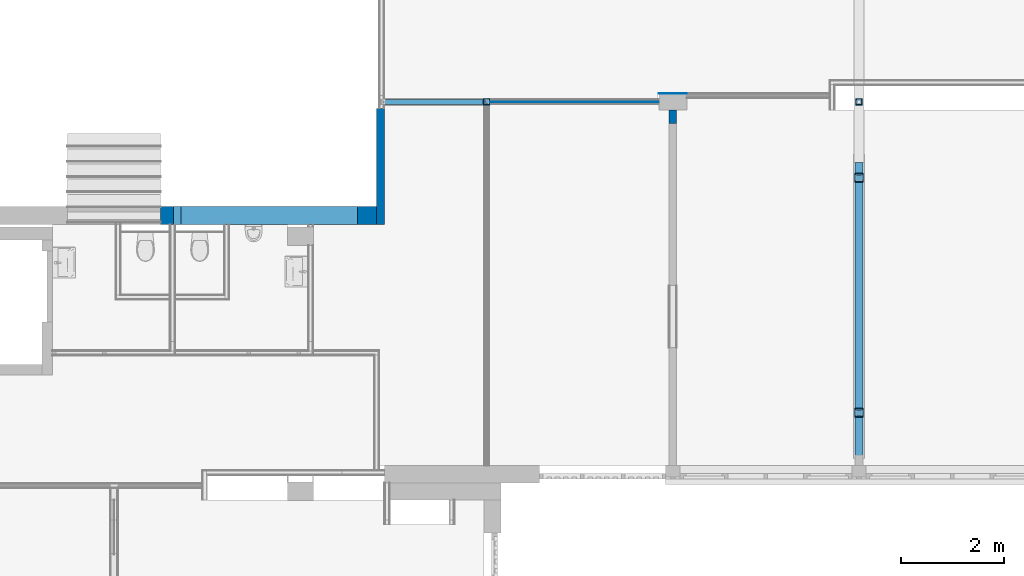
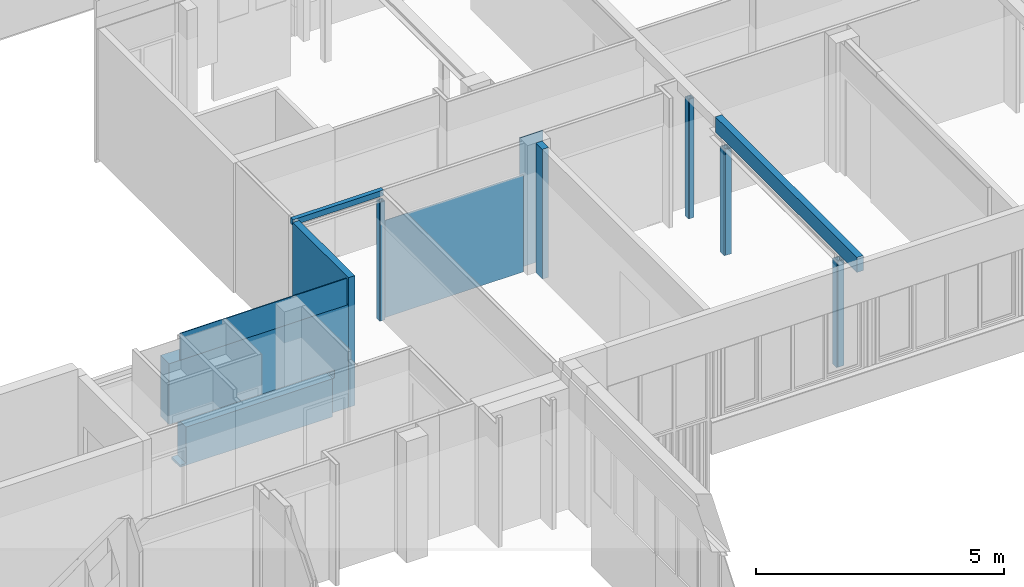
# One storey, part 46 of 99: 24 walls.
"""IFC2X3 building model written with IfcOpenShell, lengths in millimetres."""

import ifcopenshell
import ifcopenshell.guid

model = None  # the IFC model being written
_history = None  # IfcOwnerHistory: only IFC2X3 demands one
_inside = {}  # id of a spatial element -> (the spatial element, [elements in it])
_under = {}  # id of a project, library or spatial element -> (it, [spatial elements below it])
_declared = {}  # id of a project -> (the project, [libraries it declares])
_typed = {}  # id of a type object -> (the type object, [elements of that type])
_made_of = {}  # id of a material, layer set ... -> (it, [elements and type objects made of it])


def new_model(schema):
    """Start an empty IFC model of exactly this schema.

    Asked for "IFC4X3", IfcOpenShell would pick the latest addendum, in which some entities
    have other attributes; the version numbers below select the first issue.
    IFC2X3 requires an IfcOwnerHistory on every rooted entity: one is made here for all.
    """
    global model, _history
    if schema == "IFC4X3":
        model = ifcopenshell.file(schema_version=(4, 3, 0, 0))
    else:
        model = ifcopenshell.file(schema=schema)
    _inside.clear()
    _under.clear()
    _declared.clear()
    _typed.clear()
    _made_of.clear()
    _history = None
    if model.schema == "IFC2X3":
        org = make("IfcOrganization", Name="unknown")
        user = make(
            "IfcPersonAndOrganization",
            ThePerson=make("IfcPerson", FamilyName="unknown"),
            TheOrganization=org,
        )
        app = make(
            "IfcApplication",
            ApplicationDeveloper=org,
            Version="unknown",
            ApplicationFullName="unknown",
            ApplicationIdentifier="unknown",
        )
        _history = make(
            "IfcOwnerHistory",
            OwningUser=user,
            OwningApplication=app,
            ChangeAction="ADDED",
            CreationDate=0,
        )
    return model


def make(cls, **values):
    """One entity of the class cls with the attributes given. An attribute that is None is left unset."""
    return model.create_entity(
        cls, **{name: value for name, value in values.items() if value is not None}
    )


def entity(cls, *values):
    """Any entity or typed value of the class cls, its attributes in the order of the schema. None: left unset."""
    e = model.create_entity(cls)
    for i, value in enumerate(values):
        if value is not None:
            e[i] = value
    return e


def rooted(cls, **values):
    """An entity with a GlobalId (a new one), such as an element, a storey or a relation."""
    return make(cls, GlobalId=ifcopenshell.guid.new(), OwnerHistory=_history, **values)


def si_unit(unit_type, name, prefix=None):
    """IfcSIUnit, for example si_unit("LENGTHUNIT", "METRE", prefix="MILLI")."""
    return make("IfcSIUnit", UnitType=unit_type, Prefix=prefix, Name=name)


def converted_unit(unit_type, name, factor, base, dimensions=None, offset=None):
    """IfcConversionBasedUnit, such as the inch: factor (a typed value) times the base unit."""
    return make(
        "IfcConversionBasedUnit"
        if offset is None
        else "IfcConversionBasedUnitWithOffset",
        ConversionOffset=offset,
        Dimensions=None
        if dimensions is None
        else entity("IfcDimensionalExponents", *dimensions),
        UnitType=unit_type,
        Name=name,
        ConversionFactor=make(
            "IfcMeasureWithUnit", ValueComponent=factor, UnitComponent=base
        ),
    )


def derived_unit(unit_type, elements):
    """IfcDerivedUnit: a product of units, each with its exponent."""
    return make(
        "IfcDerivedUnit",
        Elements=[
            make("IfcDerivedUnitElement", Unit=unit, Exponent=power)
            for unit, power in elements
        ],
        UnitType=unit_type,
    )


def money_unit(currency):
    """IfcMonetaryUnit."""
    return make("IfcMonetaryUnit", Currency=currency)


def assignment(units):
    """IfcUnitAssignment: the units of a project."""
    return None if units is None else make("IfcUnitAssignment", Units=units)


def point(xyz):
    """IfcCartesianPoint."""
    return None if xyz is None else make("IfcCartesianPoint", Coordinates=xyz)


def direction(xyz):
    """IfcDirection."""
    return None if xyz is None else make("IfcDirection", DirectionRatios=xyz)


def frame(location, z_axis=None, x_axis=None):
    """IfcAxis2Placement3D, a coordinate frame: its origin and axes. An axis left out is left unset."""
    return make(
        "IfcAxis2Placement3D",
        Location=point(location),
        Axis=direction(z_axis),
        RefDirection=direction(x_axis),
    )


def origin_with_axes():
    """The frame at (0, 0, 0) with the z axis (0, 0, 1) and the x axis (1, 0, 0) written out."""
    return frame((0.0, 0.0, 0.0), z_axis=(0.0, 0.0, 1.0), x_axis=(1.0, 0.0, 0.0))


def place(relative_to, where):
    """IfcLocalPlacement: puts the frame where relative to a parent placement (None: the world)."""
    return make(
        "IfcLocalPlacement", PlacementRelTo=relative_to, RelativePlacement=where
    )


def context(
    kind, dimensions, precision=None, world=None, true_north=None, identifier=None
):
    """IfcGeometricRepresentationContext, for example the 3D "Model" context."""
    return make(
        "IfcGeometricRepresentationContext",
        ContextIdentifier=identifier,
        ContextType=kind,
        CoordinateSpaceDimension=dimensions,
        Precision=precision,
        WorldCoordinateSystem=world,
        TrueNorth=true_north,
    )


def subcontext(parent, identifier, kind, view, scale=None):
    """IfcGeometricRepresentationSubContext, for example "Body" below "Model"."""
    return make(
        "IfcGeometricRepresentationSubContext",
        ContextIdentifier=identifier,
        ContextType=kind,
        ParentContext=parent,
        TargetScale=scale,
        TargetView=view,
    )


def project(units=None, contexts=None):
    """IfcProject with its units and contexts."""
    return rooted(
        "IfcProject",
        Name="project",
        RepresentationContexts=contexts,
        UnitsInContext=assignment(units),
    )


def spatial(cls, under=None, at=None, **own):
    """A site, building, storey or space (cls), placed at a placement, below another one or the project."""
    s = rooted(cls, ObjectPlacement=at, **own)
    if under is not None:
        _under.setdefault(under.id(), (under, []))[1].append(s)
    return s


def faces_of(points, faces, orient=None, outer=None):
    """IfcFace entities. A face is a list of loops; a loop is a list of indices into points, from 0.

    orient and outer hold one flag for each loop. By default every Orientation is true, the
    first loop of a face is its IfcFaceOuterBound and the others are IfcFaceBound.
    """
    made = []
    for i, loops in enumerate(faces):
        bounds = []
        for j, loop in enumerate(loops):
            is_outer = j == 0 if outer is None else outer[i][j]
            bounds.append(
                make(
                    "IfcFaceOuterBound" if is_outer else "IfcFaceBound",
                    Bound=make("IfcPolyLoop", Polygon=[points[k] for k in loop]),
                    Orientation=True if orient is None else orient[i][j],
                )
            )
        made.append(make("IfcFace", Bounds=bounds))
    return made


def faceted_brep(points, faces, orient=None, outer=None, voids=None):
    """IfcFacetedBrep: a solid bounded by flat faces; with voids (closed shells), ...WithVoids."""
    shared = [point(p) for p in points]
    hull = make("IfcClosedShell", CfsFaces=faces_of(shared, faces, orient, outer))
    if voids is None:
        return make("IfcFacetedBrep", Outer=hull)
    return make(
        "IfcFacetedBrepWithVoids",
        Outer=hull,
        Voids=[
            make(cls, CfsFaces=faces_of(shared, fs, o, b)) for cls, fs, o, b in voids
        ],
    )


def shape(context_of_items, identifier, shape_type, items):
    """IfcShapeRepresentation: the items that make up one representation, for example the "Body"."""
    return make(
        "IfcShapeRepresentation",
        ContextOfItems=context_of_items,
        RepresentationIdentifier=identifier,
        RepresentationType=shape_type,
        Items=items,
    )


def material(Name=None, Category=None):
    """IfcMaterial."""
    return make("IfcMaterial", Name=Name, Category=Category)


def made_of(thing, what):
    """Note that an element or type object is made of a material, layer set ...; save() writes the relation."""
    if what is not None:
        _made_of.setdefault(what.id(), (what, []))[1].append(thing)
    return thing


def type_object(cls, material=None, **own):
    """A type object (cls), such as IfcWallType, which elements share."""
    return made_of(rooted(cls, **own), material)


def element(
    cls,
    number,
    at=None,
    inside=None,
    cuts=None,
    type_object=None,
    material=None,
    context=None,
    identifier="Body",
    shape_type=None,
    held_by="IfcProductDefinitionShape",
    body=None,
    shapes=None,
    **own,
):
    """One element of the class cls, such as IfcWall. Its Tag is "e" and its number.

    at: its placement. inside: the storey or other place that contains it. cuts: it is an
    opening in that element (IfcRelVoidsElement). A single representation is given by context,
    identifier, shape_type and body (its items); several are given by shapes. held_by: the class
    of the entity that holds the representations. save() writes the other relations.
    """
    e = rooted(cls, Tag="e%d" % number, ObjectPlacement=at, **own)
    if body is not None:
        shapes = [shape(context, identifier, shape_type, body)]
    if shapes is not None:
        e.Representation = make(held_by, Representations=shapes)
    if inside is not None:
        _inside.setdefault(inside.id(), (inside, []))[1].append(e)
    if cuts is not None:
        rooted(
            "IfcRelVoidsElement", RelatingBuildingElement=cuts, RelatedOpeningElement=e
        )
    if type_object is not None:
        _typed.setdefault(type_object.id(), (type_object, []))[1].append(e)
    return made_of(e, material)


def aggregate(whole, parts):
    """IfcRelAggregates: a whole, such as a stair, and the parts it consists of."""
    return rooted("IfcRelAggregates", RelatingObject=whole, RelatedObjects=parts)


def save(model, path):
    """Write the relations noted so far, then the file.

    IfcRelAggregates (storeys below a building ...), IfcRelContainedInSpatialStructure (elements
    in a storey), IfcRelDefinesByType, IfcRelAssociatesMaterial and IfcRelDeclares: one each for
    every whole, place, type object, material and project.
    """
    for whole, parts in _under.values():
        aggregate(whole, parts)
    for where, things in _inside.values():
        rooted(
            "IfcRelContainedInSpatialStructure",
            RelatedElements=things,
            RelatingStructure=where,
        )
    for kind, things in _typed.values():
        rooted("IfcRelDefinesByType", RelatedObjects=things, RelatingType=kind)
    for what, things in _made_of.values():
        rooted("IfcRelAssociatesMaterial", RelatedObjects=things, RelatingMaterial=what)
    for by, libraries in _declared.values():
        rooted("IfcRelDeclares", RelatingContext=by, RelatedDefinitions=libraries)
    model.write(path)


model = new_model("IFC2X3")

# Units and contexts
model_context = context("Model", 3, precision=0.01, world=origin_with_axes(), true_north=direction((0.0, 1.0)))
body_context = subcontext(model_context, "Body", "Model", "MODEL_VIEW")
ifc_project = project(units=[si_unit("LENGTHUNIT", "METRE", prefix="MILLI"), si_unit("AREAUNIT", "SQUARE_METRE"), si_unit("VOLUMEUNIT", "CUBIC_METRE"), converted_unit("PLANEANGLEUNIT", "DEGREE", entity("IfcPlaneAngleMeasure", 0.0174532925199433), si_unit("PLANEANGLEUNIT", "RADIAN"), dimensions=[0, 0, 0, 0, 0, 0, 0]), money_unit("EUR"), converted_unit("TIMEUNIT", "Year", entity("IfcTimeMeasure", 31557600.0), si_unit("TIMEUNIT", "SECOND"), dimensions=[0, 0, 1, 0, 0, 0, 0]), si_unit("MASSUNIT", "GRAM", prefix="KILO"), si_unit("THERMODYNAMICTEMPERATUREUNIT", "DEGREE_CELSIUS"), si_unit("LUMINOUSINTENSITYUNIT", "LUMEN"), si_unit("ENERGYUNIT", "JOULE", prefix="MEGA"), derived_unit("THERMALCONDUCTANCEUNIT", [(si_unit("POWERUNIT", "WATT"), 1), (si_unit("LENGTHUNIT", "METRE"), -1), (si_unit("THERMODYNAMICTEMPERATUREUNIT", "KELVIN"), -1)]), derived_unit("SPECIFICHEATCAPACITYUNIT", [(si_unit("ENERGYUNIT", "JOULE"), 1), (si_unit("MASSUNIT", "GRAM", prefix="KILO"), -1), (si_unit("THERMODYNAMICTEMPERATUREUNIT", "KELVIN"), -1)]), derived_unit("MASSDENSITYUNIT", [(si_unit("MASSUNIT", "GRAM", prefix="KILO"), 1), (si_unit("VOLUMEUNIT", "CUBIC_METRE"), -1)])], contexts=[model_context])

# Site, building, storey
site_placement = place(None, origin_with_axes())
site = spatial("IfcSite", under=ifc_project, at=site_placement, Name="Site", CompositionType="ELEMENT")
building_placement = place(site_placement, origin_with_axes())
building = spatial("IfcBuilding", under=site, at=building_placement, Name="Naam gebouw", CompositionType="ELEMENT")
storey_placement = place(building_placement, frame((0.0, 0.0, 7650.0), z_axis=(0.0, 0.0, 1.0), x_axis=(1.0, 0.0, 0.0)))
storey = spatial("IfcBuildingStorey", under=building, at=storey_placement, Name="2e verdieping N", CompositionType="ELEMENT", Elevation=7650.0)

# Walls
ifc_material_1 = material(Name="ALG - CONSTRUCTIEF")
wall_type_1 = type_object("IfcWallType", Name="ALG - CONSTRUCTIEF 150", PredefinedType="NOTDEFINED")
wall_1_placement = place(storey_placement, frame((36000.0, 17605.91242510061, -99.99999999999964), z_axis=(0.0, 0.0, 1.0), x_axis=(0.0, 1.0, 0.0)))
element("IfcWall", 1, at=wall_1_placement, inside=storey, type_object=wall_type_1, material=ifc_material_1, Name="_Wand-x", context=body_context, shape_type="Brep", body=[
    faceted_brep([(264.9999999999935, -75.00000000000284, 99.99999999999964), (264.9999999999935, 75.00000000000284, 99.99999999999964), (264.9999999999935, 75.00000000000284, 3299.999999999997), (264.9999999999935, -75.00000000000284, 3299.999999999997), (0.0, -75.00000000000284, 99.99999999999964), (0.0, 75.00000000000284, 99.99999999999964), (0.0, 75.00000000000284, 3299.999999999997), (0.0, -75.00000000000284, 3299.999999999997)], [[[0, 1, 2, 3]], [[4, 5, 1, 0]], [[1, 5, 6, 2]], [[2, 6, 7, 3]], [[4, 0, 3, 7]], [[5, 4, 7, 6]]]),
])
wall_2_placement = place(storey_placement, frame((30425.0, 17900.91242510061, -99.99999999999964), z_axis=(0.0, 0.0, 1.0), x_axis=(0.0, -1.0, 0.0)))
element("IfcWall", 2, at=wall_2_placement, inside=storey, type_object=wall_type_1, material=ifc_material_1, Name="_Wand-x", context=body_context, shape_type="Brep", body=[
    faceted_brep([(0.0, -149.9999999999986, 99.99999999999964), (0.0, -149.9999999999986, 3299.999999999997), (0.0, 0.0, 3299.999999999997), (0.0, 0.0, 99.99999999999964), (2250.000000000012, -149.9999999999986, 99.99999999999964), (2250.000000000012, -149.9999999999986, 3299.999999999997), (2250.000000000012, 0.0, 3299.999999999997), (2250.000000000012, 0.0, 99.99999999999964)], [[[0, 1, 2, 3]], [[4, 5, 1, 0]], [[5, 6, 2, 1]], [[3, 2, 6, 7]], [[4, 0, 3, 7]], [[7, 6, 5, 4]]]),
])
wall_type_2 = type_object("IfcWallType", Name="ALG - CONSTRUCTIEF 350", PredefinedType="NOTDEFINED")
wall_3_placement = place(storey_placement, frame((30424.99999999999, 16000.91242510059, 0.0), z_axis=(0.0, 0.0, 1.0), x_axis=(-1.0, 0.0, 0.0)))
element("IfcWall", 3, at=wall_3_placement, inside=storey, type_object=wall_type_2, material=ifc_material_1, Name="_Wand-x", context=body_context, shape_type="Brep", body=[
    faceted_brep([(149.999999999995, 0.0, 0.0), (3932.999999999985, 0.0, 0.0), (3932.999999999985, 0.0, 839.9999999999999), (479.9999999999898, 0.0, 839.9999999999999), (479.9999999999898, 0.0, 1039.999999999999), (4328.999999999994, 0.0, 1039.999999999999), (4328.999999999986, 0.0, 2539.999999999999), (149.999999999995, 0.0, 2539.999999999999), (149.999999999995, 350.0000000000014, 0.0), (3932.999999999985, 350.0000000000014, 0.0), (3932.999999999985, 349.9999692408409, 839.9999999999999), (479.9999999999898, 349.9999692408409, 839.9999999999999), (479.9999999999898, 349.9999692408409, 1039.999999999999), (4328.999999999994, 349.9999692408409, 1039.999999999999), (4328.999999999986, 350.0000000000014, 2539.999999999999), (149.999999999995, 350.0000000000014, 2539.999999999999)], [[[0, 1, 2, 3, 4, 5, 6, 7]], [[8, 9, 1, 0]], [[9, 10, 2, 1]], [[3, 2, 10, 11]], [[11, 12, 4, 3]], [[12, 13, 5, 4]], [[14, 6, 5, 13]], [[6, 14, 15, 7]], [[8, 0, 7, 15]], [[11, 10, 9, 8, 15, 14, 13, 12]]]),
])
wall_4_placement = place(storey_placement, frame((29906.0, 16000.91242510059, -99.99999999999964), z_axis=(0.0, 0.0, 1.0), x_axis=(-1.0, 0.0, 0.0)))
element("IfcWall", 4, at=wall_4_placement, inside=storey, type_object=wall_type_2, material=ifc_material_1, Name="_Wand-x", context=body_context, shape_type="Brep", body=[
    faceted_brep([(3559.999999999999, 0.0, 0.0), (3559.999999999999, 0.0, 49.99999987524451), (3413.999999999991, 0.0, 49.99999987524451), (3413.999999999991, 0.0, 939.9999999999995), (0.0, 0.0, 939.9999999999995), (0.0, 0.0, 0.0), (3559.999999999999, 350.0000000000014, 0.0), (3559.999999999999, 349.9999983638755, 49.99999987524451), (3413.999999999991, 349.9999692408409, 49.99999987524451), (3413.999999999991, 349.9999692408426, 939.9999999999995), (0.0, 349.9999692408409, 939.9999999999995), (0.0, 350.0000000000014, 0.0)], [[[0, 1, 2, 3, 4, 5]], [[6, 7, 1, 0]], [[8, 2, 1, 7]], [[8, 9, 3, 2]], [[4, 3, 9, 10]], [[11, 5, 4, 10]], [[5, 11, 6, 0]], [[9, 8, 7, 6, 11, 10]]]),
    faceted_brep([(3559.999999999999, 329.9999999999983, 2639.999999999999), (3559.999999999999, 330.0000000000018, 3299.999999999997), (-39.00000000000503, 330.0000000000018, 3299.999999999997), (-329.9999999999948, 329.9999999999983, 3299.999999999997), (-329.9999999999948, 329.9999999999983, 2639.999999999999), (3559.999999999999, 350.0000000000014, 2639.999999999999), (3559.999999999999, 350.0000000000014, 3299.999999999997), (-329.9999999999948, 350.0000000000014, 3299.999999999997), (-329.9999999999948, 350.0000000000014, 2639.999999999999)], [[[0, 1, 2, 3, 4]], [[5, 6, 1, 0]], [[6, 7, 3, 2, 1]], [[4, 3, 7, 8]], [[8, 5, 0, 4]], [[8, 7, 6, 5]]]),
])
ifc_material_2 = material(Name="Gipsplaat")
wall_type_3 = type_object("IfcWallType", Name="Gipsplaat 25", PredefinedType="NOTDEFINED")
wall_5_placement = place(storey_placement, frame((39685.0, 16475.9124251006, 0.0), z_axis=(0.0, 0.0, 1.0), x_axis=(0.0, 1.0, 0.0)))
element("IfcWall", 5, at=wall_5_placement, inside=storey, type_object=wall_type_3, material=ifc_material_2, Name="_Wand-x", context=body_context, shape_type="Brep", body=[
    faceted_brep([(145.0000000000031, 25.00000000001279, 0.0), (145.0000000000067, 0.0, 0.0), (24.99999999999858, 0.0, 0.0), (24.99999999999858, 24.99999999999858, 0.0), (145.0000000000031, 25.00000000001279, 2609.999999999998), (145.0000000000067, 0.0, 2609.999999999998), (24.99999999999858, 0.0, 2609.999999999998), (24.99999999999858, 24.99999999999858, 2609.999999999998)], [[[0, 1, 2, 3]], [[1, 0, 4, 5]], [[1, 5, 6, 2]], [[7, 3, 2, 6]], [[4, 0, 3, 7]], [[5, 4, 7, 6]]]),
])
wall_6_placement = place(storey_placement, frame((39515.00000000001, 11930.91242510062, 0.0), z_axis=(0.0, 0.0, 1.0), x_axis=(1.0, 0.0, 0.0)))
element("IfcWall", 6, at=wall_6_placement, inside=storey, type_object=wall_type_3, material=ifc_material_2, Name="_Wand-x", context=body_context, shape_type="Brep", body=[
    faceted_brep([(169.9999999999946, 25.00000000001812, 0.0), (169.9999999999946, 0.0, 0.0), (24.99999999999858, 0.0, 0.0), (24.99999999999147, 25.00000000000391, 0.0), (169.9999999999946, 25.00000000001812, 2609.999999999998), (169.9999999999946, 0.0, 2609.999999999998), (24.99999999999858, 0.0, 2609.999999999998), (24.99999999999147, 25.00000000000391, 2609.999999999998)], [[[0, 1, 2, 3]], [[1, 0, 4, 5]], [[1, 5, 6, 2]], [[7, 3, 2, 6]], [[4, 0, 3, 7]], [[5, 4, 7, 6]]]),
])
wall_7_placement = place(storey_placement, frame((39515.00000000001, 11930.91242510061, 0.0), z_axis=(0.0, 0.0, 1.0), x_axis=(0.0, 1.0, 0.0)))
element("IfcWall", 7, at=wall_7_placement, inside=storey, type_object=wall_type_3, material=ifc_material_2, Name="_Wand-x", context=body_context, shape_type="Brep", body=[
    faceted_brep([(169.999999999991, -24.99999999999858, 2609.999999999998), (169.999999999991, 0.0, 2609.999999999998), (0.0, 0.0, 2609.999999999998), (0.0, -24.99999999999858, 2609.999999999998), (169.999999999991, -24.99999999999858, 0.0), (169.999999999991, 0.0, 0.0), (0.0, 0.0, 0.0), (0.0, -24.99999999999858, 0.0)], [[[0, 1, 2, 3]], [[1, 0, 4, 5]], [[1, 5, 6, 2]], [[7, 3, 2, 6]], [[4, 0, 3, 7]], [[5, 4, 7, 6]]]),
])
wall_8_placement = place(storey_placement, frame((39515.00000000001, 12100.9124251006, 0.0), z_axis=(0.0, 0.0, 1.0), x_axis=(1.0, 0.0, 0.0)))
element("IfcWall", 8, at=wall_8_placement, inside=storey, type_object=wall_type_3, material=ifc_material_2, Name="_Wand-x", context=body_context, shape_type="Brep", body=[
    faceted_brep([(170.0000000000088, -25.00000000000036, 2609.999999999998), (170.0000000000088, 0.0, 2609.999999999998), (24.99999999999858, 0.0, 2609.999999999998), (24.99999999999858, -25.00000000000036, 2609.999999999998), (170.0000000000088, -25.00000000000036, 0.0), (170.0000000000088, 0.0, 0.0), (24.99999999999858, 0.0, 0.0), (24.99999999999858, -25.00000000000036, 0.0)], [[[0, 1, 2, 3]], [[1, 0, 4, 5]], [[1, 5, 6, 2]], [[7, 3, 2, 6]], [[4, 0, 3, 7]], [[5, 4, 7, 6]]]),
])
wall_9_placement = place(storey_placement, frame((39685.0, 11930.9124251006, 0.0), z_axis=(0.0, 0.0, 1.0), x_axis=(0.0, 1.0, 0.0)))
element("IfcWall", 9, at=wall_9_placement, inside=storey, type_object=wall_type_3, material=ifc_material_2, Name="_Wand-x", context=body_context, shape_type="Brep", body=[
    faceted_brep([(145.0000000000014, 25.00000000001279, 0.0), (145.0000000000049, 0.0, 0.0), (25.00000000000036, 0.0, 0.0), (24.99999999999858, 25.00000000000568, 0.0), (145.0000000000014, 25.00000000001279, 2609.999999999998), (145.0000000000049, 0.0, 2609.999999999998), (25.00000000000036, 0.0, 2609.999999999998), (24.99999999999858, 25.00000000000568, 2609.999999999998)], [[[0, 1, 2, 3]], [[1, 0, 4, 5]], [[1, 5, 6, 2]], [[7, 3, 2, 6]], [[4, 0, 3, 7]], [[5, 4, 7, 6]]]),
])
wall_10_placement = place(storey_placement, frame((39515.00000000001, 16475.91242510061, 0.0), z_axis=(0.0, 0.0, 1.0), x_axis=(0.0, 1.0, 0.0)))
element("IfcWall", 10, at=wall_10_placement, inside=storey, type_object=wall_type_3, material=ifc_material_2, Name="_Wand-x", context=body_context, shape_type="Brep", body=[
    faceted_brep([(169.999999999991, -24.99999999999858, 2609.999999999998), (169.999999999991, 0.0, 2609.999999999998), (0.0, 0.0, 2609.999999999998), (0.0, -24.99999999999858, 2609.999999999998), (169.999999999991, -24.99999999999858, 0.0), (169.999999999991, 0.0, 0.0), (0.0, 0.0, 0.0), (0.0, -24.99999999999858, 0.0)], [[[0, 1, 2, 3]], [[1, 0, 4, 5]], [[1, 5, 6, 2]], [[7, 3, 2, 6]], [[4, 0, 3, 7]], [[5, 4, 7, 6]]]),
])
wall_11_placement = place(storey_placement, frame((39535.00000000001, 17960.91242510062, 0.0), z_axis=(0.0, 0.0, 1.0), x_axis=(1.0, 0.0, 0.0)))
element("IfcWall", 11, at=wall_11_placement, inside=storey, type_object=wall_type_3, material=ifc_material_2, Name="_Wand-x", context=body_context, shape_type="Brep", body=[
    faceted_brep([(130.0000000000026, 24.99999999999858, 0.0), (130.0000000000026, 0.0, 0.0), (24.99999999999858, 0.0, 0.0), (24.99999999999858, 24.99999999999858, 0.0), (130.0000000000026, 24.99999999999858, 2949.999999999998), (130.0000000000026, 0.0, 2949.999999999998), (24.99999999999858, 0.0, 2949.999999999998), (24.99999999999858, 24.99999999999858, 2949.999999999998)], [[[0, 1, 2, 3]], [[1, 0, 4, 5]], [[1, 5, 6, 2]], [[7, 3, 2, 6]], [[4, 0, 3, 7]], [[5, 4, 7, 6]]]),
])
wall_12_placement = place(storey_placement, frame((39515.00000000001, 16645.9124251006, 0.0), z_axis=(0.0, 0.0, 1.0), x_axis=(1.0, 0.0, 0.0)))
element("IfcWall", 12, at=wall_12_placement, inside=storey, type_object=wall_type_3, material=ifc_material_2, Name="_Wand-x", context=body_context, shape_type="Brep", body=[
    faceted_brep([(170.0000000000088, -24.99999999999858, 2609.999999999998), (170.0000000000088, 0.0, 2609.999999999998), (24.99999999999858, 0.0, 2609.999999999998), (24.99999999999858, -24.99999999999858, 2609.999999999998), (170.0000000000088, -24.99999999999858, 0.0), (170.0000000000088, 0.0, 0.0), (24.99999999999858, 0.0, 0.0), (24.99999999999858, -24.99999999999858, 0.0)], [[[0, 1, 2, 3]], [[1, 0, 4, 5]], [[1, 5, 6, 2]], [[7, 3, 2, 6]], [[4, 0, 3, 7]], [[5, 4, 7, 6]]]),
])
wall_13_placement = place(storey_placement, frame((39515.00000000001, 16475.91242510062, 0.0), z_axis=(0.0, 0.0, 1.0), x_axis=(1.0, 0.0, 0.0)))
element("IfcWall", 13, at=wall_13_placement, inside=storey, type_object=wall_type_3, material=ifc_material_2, Name="_Wand-x", context=body_context, shape_type="Brep", body=[
    faceted_brep([(169.9999999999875, 25.00000000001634, 0.0), (169.9999999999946, 0.0, 0.0), (24.99999999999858, 0.0, 0.0), (24.99999999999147, 25.00000000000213, 0.0), (169.9999999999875, 25.00000000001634, 2609.999999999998), (169.9999999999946, 0.0, 2609.999999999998), (24.99999999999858, 0.0, 2609.999999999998), (24.99999999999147, 25.00000000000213, 2609.999999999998)], [[[0, 1, 2, 3]], [[1, 0, 4, 5]], [[1, 5, 6, 2]], [[7, 3, 2, 6]], [[4, 0, 3, 7]], [[5, 4, 7, 6]]]),
])
wall_14_placement = place(storey_placement, frame((39665.00000000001, 17960.91242510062, 0.0), z_axis=(0.0, 0.0, 1.0), x_axis=(0.0, 1.0, 0.0)))
element("IfcWall", 14, at=wall_14_placement, inside=storey, type_object=wall_type_3, material=ifc_material_2, Name="_Wand-x", context=body_context, shape_type="Brep", body=[
    faceted_brep([(104.9999999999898, 24.99999999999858, 0.0), (104.9999999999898, 0.0, 0.0), (24.99999999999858, 0.0, 0.0), (24.99999999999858, 24.99999999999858, 0.0), (104.9999999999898, 24.99999999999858, 2949.999999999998), (104.9999999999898, 0.0, 2949.999999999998), (24.99999999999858, 0.0, 2949.999999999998), (24.99999999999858, 24.99999999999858, 2949.999999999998)], [[[0, 1, 2, 3]], [[1, 0, 4, 5]], [[1, 5, 6, 2]], [[7, 3, 2, 6]], [[4, 0, 3, 7]], [[5, 4, 7, 6]]]),
])
wall_15_placement = place(storey_placement, frame((32359.99999999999, 17985.91242510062, 0.0), z_axis=(0.0, 0.0, 1.0), x_axis=(1.0, 0.0, 0.0)))
element("IfcWall", 15, at=wall_15_placement, inside=storey, type_object=wall_type_3, material=ifc_material_2, Name="_Wand-x", context=body_context, shape_type="Brep", body=[
    faceted_brep([(104.9999999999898, -24.99999999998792, 2926.999999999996), (104.9999999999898, 0.0, 2926.999999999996), (0.0, 0.0, 2926.999999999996), (0.0, -24.99999999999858, 2926.999999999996), (104.9999999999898, -24.99999999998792, 0.0), (104.9999999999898, 0.0, 0.0), (0.0, 0.0, 0.0), (0.0, -24.99999999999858, 0.0)], [[[0, 1, 2, 3]], [[1, 0, 4, 5]], [[1, 5, 6, 2]], [[7, 3, 2, 6]], [[4, 0, 3, 7]], [[5, 4, 7, 6]]]),
])
wall_16_placement = place(storey_placement, frame((32439.99999999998, 17985.91242510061, 0.0), z_axis=(0.0, 0.0, 1.0), x_axis=(0.0, 1.0, 0.0)))
element("IfcWall", 16, at=wall_16_placement, inside=storey, type_object=wall_type_3, material=ifc_material_2, Name="_Wand-x", context=body_context, shape_type="Brep", body=[
    faceted_brep([(80.00000000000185, -24.99999999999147, 2926.999999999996), (79.9999999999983, 0.0, 2926.999999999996), (0.0, 0.0, 2926.999999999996), (0.0, -24.99999999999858, 2926.999999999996), (80.00000000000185, -24.99999999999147, 0.0), (79.9999999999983, 0.0, 0.0), (0.0, 0.0, 0.0), (0.0, -24.99999999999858, 0.0)], [[[0, 1, 2, 3]], [[1, 0, 4, 5]], [[1, 5, 6, 2]], [[7, 3, 2, 6]], [[4, 0, 3, 7]], [[5, 4, 7, 6]]]),
])
wall_17_placement = place(storey_placement, frame((32359.99999999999, 17985.91242510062, 0.0), z_axis=(0.0, 0.0, 1.0), x_axis=(0.0, 1.0, 0.0)))
element("IfcWall", 17, at=wall_17_placement, inside=storey, type_object=wall_type_3, material=ifc_material_2, Name="_Wand-x", context=body_context, shape_type="Brep", body=[
    faceted_brep([(104.9999999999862, 24.99999999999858, 0.0), (104.9999999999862, 0.0, 0.0), (-24.99999999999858, 0.0, 0.0), (-24.99999999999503, 24.99999999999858, 0.0), (104.9999999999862, 24.99999999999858, 2926.999999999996), (104.9999999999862, 0.0, 2926.999999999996), (-24.99999999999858, 0.0, 2926.999999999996), (-24.99999999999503, 24.99999999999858, 2926.999999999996)], [[[0, 1, 2, 3]], [[1, 0, 4, 5]], [[1, 5, 6, 2]], [[7, 3, 2, 6]], [[4, 0, 3, 7]], [[5, 4, 7, 6]]]),
])
wall_18_placement = place(storey_placement, frame((32359.99999999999, 18065.91242510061, 0.0), z_axis=(0.0, 0.0, 1.0), x_axis=(1.0, 0.0, 0.0)))
element("IfcWall", 18, at=wall_18_placement, inside=storey, type_object=wall_type_3, material=ifc_material_2, Name="_Wand-x", context=body_context, shape_type="Brep", body=[
    faceted_brep([(104.9999999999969, 24.99999999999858, 0.0), (104.9999999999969, 0.0, 0.0), (0.0, 0.0, 0.0), (0.0, 24.99999999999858, 0.0), (104.9999999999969, 24.99999999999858, 2926.999999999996), (104.9999999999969, 0.0, 2926.999999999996), (0.0, 0.0, 2926.999999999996), (0.0, 24.99999999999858, 2926.999999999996)], [[[0, 1, 2, 3]], [[1, 0, 4, 5]], [[1, 5, 6, 2]], [[7, 3, 2, 6]], [[4, 0, 3, 7]], [[5, 4, 7, 6]]]),
])
wall_19_placement = place(storey_placement, frame((39535.00000000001, 18090.9124251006, 0.0), z_axis=(0.0, 0.0, 1.0), x_axis=(1.0, 0.0, 0.0)))
element("IfcWall", 19, at=wall_19_placement, inside=storey, type_object=wall_type_3, material=ifc_material_2, Name="_Wand-x", context=body_context, shape_type="Brep", body=[
    faceted_brep([(130.0000000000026, -24.99999999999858, 2949.999999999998), (130.0000000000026, 0.0, 2949.999999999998), (24.99999999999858, 0.0, 2949.999999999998), (24.99999999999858, -24.99999999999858, 2949.999999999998), (130.0000000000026, -24.99999999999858, 0.0), (130.0000000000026, 0.0, 0.0), (24.99999999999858, 0.0, 0.0), (24.99999999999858, -24.99999999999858, 0.0)], [[[0, 1, 2, 3]], [[1, 0, 4, 5]], [[1, 5, 6, 2]], [[7, 3, 2, 6]], [[4, 0, 3, 7]], [[5, 4, 7, 6]]]),
])
wall_20_placement = place(storey_placement, frame((39535.00000000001, 17960.91242510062, 0.0), z_axis=(0.0, 0.0, 1.0), x_axis=(0.0, 1.0, 0.0)))
element("IfcWall", 20, at=wall_20_placement, inside=storey, type_object=wall_type_3, material=ifc_material_2, Name="_Wand-x", context=body_context, shape_type="Brep", body=[
    faceted_brep([(129.9999999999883, -24.99999999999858, 2949.999999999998), (129.9999999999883, 0.0, 2949.999999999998), (0.0, 0.0, 2949.999999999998), (0.0, -24.99999999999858, 2949.999999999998), (129.9999999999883, -24.99999999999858, 0.0), (129.9999999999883, 0.0, 0.0), (0.0, 0.0, 0.0), (0.0, -24.99999999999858, 0.0)], [[[0, 1, 2, 3]], [[1, 0, 4, 5]], [[1, 5, 6, 2]], [[7, 3, 2, 6]], [[4, 0, 3, 7]], [[5, 4, 7, 6]]]),
])
ifc_material_3 = material(Name="Steen - Betonblok C")
wall_type_4 = type_object("IfcWallType", Name="Steen - Betonblok C 150", PredefinedType="NOTDEFINED")
wall_21_placement = place(storey_placement, frame((39599.99999999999, 16855.91242510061, 2829.999999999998), z_axis=(0.0, 0.0, 1.0), x_axis=(0.0, -1.0, 0.0)))
element("IfcWall", 21, at=wall_21_placement, inside=storey, type_object=wall_type_4, material=ifc_material_3, Name="_Wand-x", context=body_context, shape_type="Brep", body=[
    faceted_brep([(0.0, -75.00000000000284, 369.9999999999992), (5725.000000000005, -75.00000000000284, 369.9999999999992), (5725.000000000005, 75.00000000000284, 369.9999999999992), (0.0, 75.00000000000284, 369.9999999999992), (0.0, -75.00000000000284, 0.0), (5725.000000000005, -75.00000000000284, 0.0), (5725.000000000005, 75.00000000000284, 0.0), (0.0, 75.00000000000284, 0.0)], [[[0, 1, 2, 3]], [[4, 5, 1, 0]], [[2, 1, 5, 6]], [[3, 2, 6, 7]], [[4, 0, 3, 7]], [[7, 6, 5, 4]]]),
])
wall_type_5 = type_object("IfcWallType", Name="Gipsplaat 13", PredefinedType="NOTDEFINED")
wall_22_placement = place(storey_placement, frame((36269.99999999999, 18195.91242510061, 0.0), z_axis=(0.0, 0.0, 1.0), x_axis=(-1.0, 0.0, 0.0)))
element("IfcWall", 22, at=wall_22_placement, inside=storey, type_object=wall_type_5, material=ifc_material_2, Name="_Wand-x", context=body_context, shape_type="Brep", body=[
    faceted_brep([(0.0, 0.0, 3199.999999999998), (540.0000000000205, 0.0, 3199.999999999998), (540.0000000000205, 12.49999999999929, 3199.999999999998), (0.0, 12.49999999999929, 3199.999999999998), (0.0, 0.0, 0.0), (540.0000000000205, 0.0, 0.0), (540.0000000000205, 12.49999999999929, 0.0), (0.0, 12.49999999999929, 0.0)], [[[0, 1, 2, 3]], [[4, 5, 1, 0]], [[2, 1, 5, 6]], [[3, 2, 6, 7]], [[4, 0, 3, 7]], [[7, 6, 5, 4]]]),
])
wall_type_6 = type_object("IfcWallType", Name="Steen - Betonblok C 100", PredefinedType="NOTDEFINED")
wall_23_placement = place(storey_placement, frame((30425.0, 18025.91242510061, 3059.999999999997), z_axis=(0.0, 0.0, 1.0), x_axis=(1.0, 0.0, 0.0)))
element("IfcWall", 23, at=wall_23_placement, inside=storey, type_object=wall_type_6, material=ifc_material_3, Name="_Wand-x", context=body_context, shape_type="Brep", body=[
    faceted_brep([(-100.0000000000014, -50.00000000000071, 140.0000000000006), (2014.999999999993, -50.00000000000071, 140.0000000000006), (2014.999999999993, 50.00000000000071, 140.0000000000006), (-100.0000000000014, 50.00000000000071, 140.0000000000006), (-100.0000000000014, -50.00000000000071, 0.0), (2014.999999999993, -50.00000000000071, 0.0), (2014.999999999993, 50.00000000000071, 0.0), (-100.0000000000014, 50.00000000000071, 0.0)], [[[0, 1, 2, 3]], [[4, 5, 1, 0]], [[2, 1, 5, 6]], [[3, 2, 6, 7]], [[4, 0, 3, 7]], [[7, 6, 5, 4]]]),
])
ifc_material_4 = material(Name="Glas")
wall_type_7 = type_object("IfcWallType", Name="Glas 10", PredefinedType="NOTDEFINED")
wall_24_placement = place(storey_placement, frame((32464.99999999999, 18025.91242510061, 0.0), z_axis=(0.0, 0.0, 1.0), x_axis=(1.0, 0.0, 0.0)))
element("IfcWall", 24, at=wall_24_placement, inside=storey, type_object=wall_type_7, material=ifc_material_4, Name="_Wand-x", context=body_context, shape_type="Brep", body=[
    faceted_brep([(0.0, -4.999999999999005, 2400.0), (3264.999999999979, -4.999999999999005, 2400.0), (3264.999999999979, 4.999999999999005, 2400.0), (0.0, 4.999999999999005, 2400.0), (0.0, -4.999999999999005, 0.0), (3264.999999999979, -4.999999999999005, 0.0), (3264.999999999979, 4.999999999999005, 0.0), (0.0, 4.999999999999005, 0.0)], [[[0, 1, 2, 3]], [[4, 5, 1, 0]], [[2, 1, 5, 6]], [[3, 2, 6, 7]], [[4, 0, 3, 7]], [[7, 6, 5, 4]]]),
])

save(model, "model.ifc")
